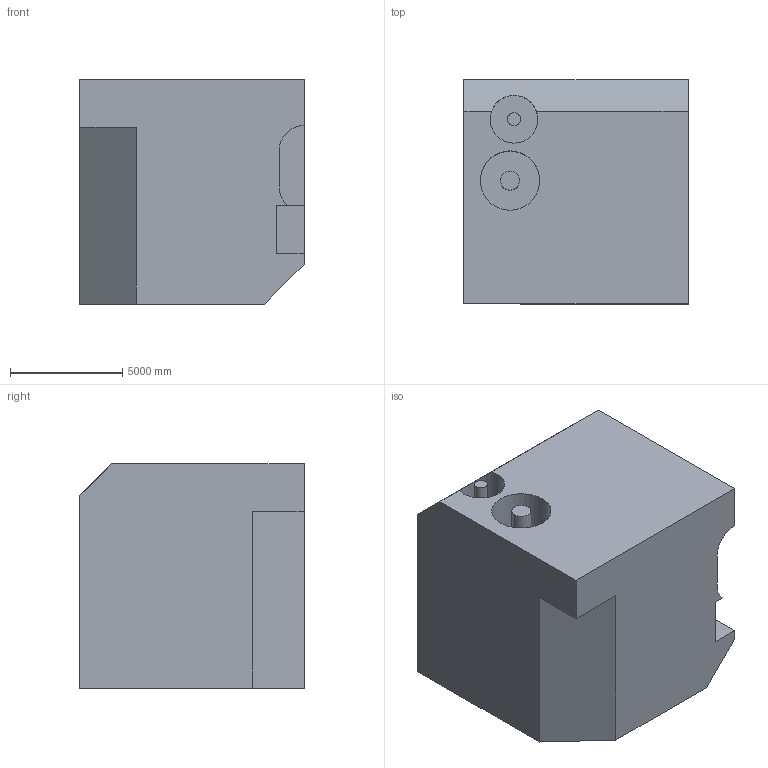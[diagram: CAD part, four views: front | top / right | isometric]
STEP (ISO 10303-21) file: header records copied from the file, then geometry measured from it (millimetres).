
FILE_DESCRIPTION (( 'STEP AP203' ), '1' );
FILE_NAME ('618.STEP', '2022-07-29T12:07:29', ( 'user' ), ( '' ), 'SwSTEP 2.0', 'SolidWorks 2021', '' );
FILE_SCHEMA (( 'CONFIG_CONTROL_DESIGN' ));
Length unit declared in the file: centimetre
Products named in the file (1): 618
Bounding box: 10000 x 10000 x 10000 mm (x, y, z)
Volume: 848911851247.3 mm3; surface area: 711086479.8 mm2
Topology: 1 solids, 1 shells, 30 faces, 75 edges, 50 vertices
Faces by surface type: plane 20, cylinder 10
Entity records: 977 total; most frequent: CARTESIAN_POINT 159, DIRECTION 157, ORIENTED_EDGE 150, EDGE_CURVE 75, LINE 53, VECTOR 53, AXIS2_PLACEMENT_3D 52, VERTEX_POINT 50
